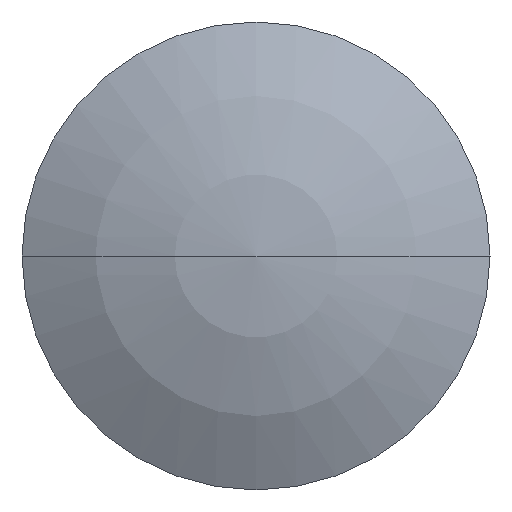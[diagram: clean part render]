
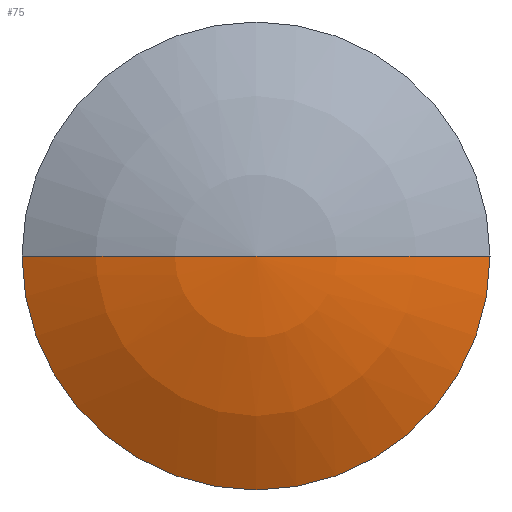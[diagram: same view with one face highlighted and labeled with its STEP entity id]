
A CAD part, left-side view. The second image highlights one B-rep face of the part: STEP entity #75.
In plain terms, the highlighted spherical face has radius 2 mm.
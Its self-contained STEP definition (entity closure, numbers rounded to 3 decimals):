
#2=CARTESIAN_POINT('',(0.,-1.,0.));
#3=DIRECTION('',(-1.,0.,0.));
#4=DIRECTION('',(0.,1.,0.));
#5=AXIS2_PLACEMENT_3D('',#2,#3,#4);
#7=CARTESIAN_POINT('',(1.732,-1.,0.));
#8=DIRECTION('',(0.,0.,1.));
#9=DIRECTION('',(-0.866,0.5,0.));
#10=AXIS2_PLACEMENT_3D('',#7,#8,#9);
#17=CARTESIAN_POINT('',(1.732,-1.,0.));
#18=DIRECTION('',(0.,0.,-1.));
#19=DIRECTION('',(-0.866,-0.5,0.));
#20=AXIS2_PLACEMENT_3D('',#17,#18,#19);
#50=CARTESIAN_POINT('',(0.,0.,0.));
#51=CARTESIAN_POINT('',(-0.268,-1.,0.));
#52=VERTEX_POINT('',#50);
#53=VERTEX_POINT('',#51);
#58=CARTESIAN_POINT('',(0.,-2.,0.));
#59=VERTEX_POINT('',#58);
#62=CARTESIAN_POINT('',(1.732,-1.,0.));
#63=DIRECTION('',(-1.,0.,0.));
#64=DIRECTION('',(0.,1.,0.));
#65=AXIS2_PLACEMENT_3D('',#62,#63,#64);
#66=SPHERICAL_SURFACE('',#65,2.);
#68=ORIENTED_EDGE('',*,*,#67,.T.);
#70=ORIENTED_EDGE('',*,*,#69,.F.);
#72=ORIENTED_EDGE('',*,*,#71,.F.);
#73=EDGE_LOOP('',(#68,#70,#72));
#74=FACE_OUTER_BOUND('',#73,.F.);
#75=ADVANCED_FACE('',(#74),#66,.T.);
#6=CIRCLE('',#5,1.);
#11=CIRCLE('',#10,2.);
#21=CIRCLE('',#20,2.);
#67=EDGE_CURVE('',#52,#53,#11,.T.);
#69=EDGE_CURVE('',#59,#53,#21,.T.);
#71=EDGE_CURVE('',#52,#59,#6,.T.);
